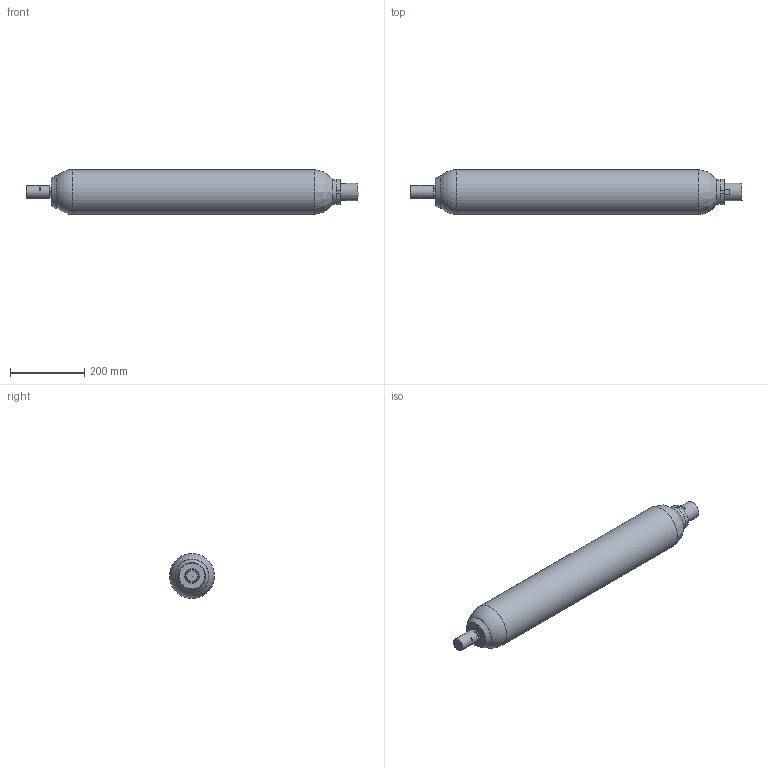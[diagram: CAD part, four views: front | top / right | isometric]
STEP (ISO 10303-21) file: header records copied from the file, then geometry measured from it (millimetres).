
FILE_DESCRIPTION((''),'2;1');
FILE_NAME('F:\STEP\ALLEGE\GAMME_EHV_STD_690bar\EHV_5_690_90.stp','2011-03-04T15:07:29',('laurent.simeon'),(''),'Autodesk Inventor 2011','Autodesk Inventor 2011','');
FILE_SCHEMA(('AUTOMOTIVE_DESIGN { 1 0 10303 214 1 1 1 1 }'));
Length unit declared in the file: millimetre
Products named in the file (16): EHV_5_690_90; CA109028-00190; BE109156-00200; CB109144-00200; EC100986-00200; BE100291-00200; EC102958-00200; PF108610-05200; BP085347-00200
Assembly tree (15 placements, depth 4):
  EHV_5_690_90
    CA109028-00190
      CA109028-00190
    BE109156-00200
      CB109144-00200
        CB109144-00200
      EC100986-00200
        EC100986-00200
      BE100291-00200
        BE100291-00200
    EC102958-00200
      EC102958-00200
    PF108610-05200
      PF108610-05200
    BP085347-00200
      BP085347-00200
Bounding box: 892.2 x 121 x 121 mm (x, y, z)
Volume: 2957529.1 mm3; surface area: 602566.9 mm2
Topology: 7 solids, 7 shells, 148 faces, 354 edges, 217 vertices
Faces by surface type: plane 58, cylinder 41, cone 27, torus 18, sphere 3, bspline 1
Full cylindrical faces by diameter (mm): 2 x2, 6.5 x8, 8 x1, 11.5 x1, 13 x1, 20.68 x1, 22.52 x1, 27 x1, 28 x1, 29.5 x1, 29.9 x1, 31 x1, 31.77 x1, 33.7 x1, 35 x1, 47.5 x1, 48 x1, 48.5 x1, 50 x1, 51.8 x2, 60.8 x1, 60.91 x1, 61 x1, 67 x1, 100 x1, 121 x1
Entity records: 4471 total; most frequent: CARTESIAN_POINT 951, DIRECTION 734, ORIENTED_EDGE 520, AXIS2_PLACEMENT_3D 336, EDGE_CURVE 260, EDGE_LOOP 248, VERTEX_POINT 194, CIRCLE 158
